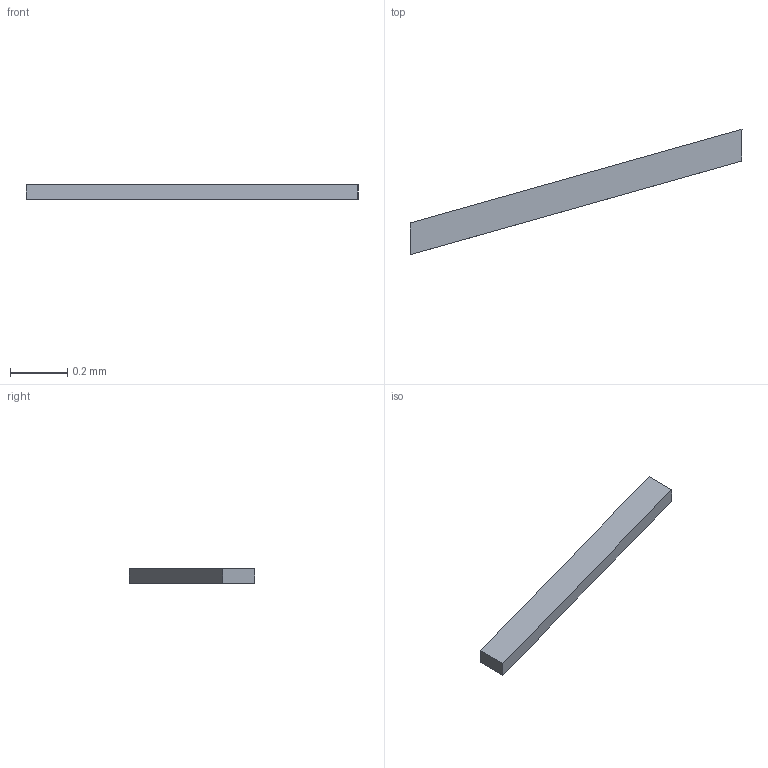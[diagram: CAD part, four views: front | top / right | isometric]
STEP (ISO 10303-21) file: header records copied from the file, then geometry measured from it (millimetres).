
FILE_DESCRIPTION(/* description */ ('STEP AP242 Edition 2','CAx-IF Rec.Pracs.---Representation and Presentation of Product Manufacturing Information (PMI)---4.0---2014-10-13','CAx-IF Rec.Pracs.---3D Tessellated Geometry---0.4---2014-09-14','2;1','CAx-IF Rec.Pracs.---User Defined Attributes---1.5---2016-08-15'),/* implementation_level */ '2;1');
FILE_NAME(/* name */ 'Drone Layout - Surface 299',/* time_stamp */ '2026-10-04T22:22:55Z',/* author */ (''),/* organization */ (''),/* preprocessor_version */ 'ST-DEVELOPER v20',/* originating_system */ 'ONSHAPE BY PTC INC, 1.221',/* authorisation */ ' ');
FILE_SCHEMA (('AP242_MANAGED_MODEL_BASED_3D_ENGINEERING_MIM_LF { 1 0 10303 442 3 1 4 }'));
Length unit declared in the file: metre
Products named in the file (1): Text_ITGMPU
Bounding box: 1.16 x 0.44 x 0.05 mm (x, y, z)
Volume: 0 mm3; surface area: 0.4 mm2
Topology: 1 solids, 1 shells, 6 faces, 12 edges, 8 vertices
Faces by surface type: plane 6
Entity records: 169 total; most frequent: CARTESIAN_POINT 27, DIRECTION 26, ORIENTED_EDGE 24, EDGE_CURVE 12, LINE 12, VECTOR 12, VERTEX_POINT 8, AXIS2_PLACEMENT_3D 7
